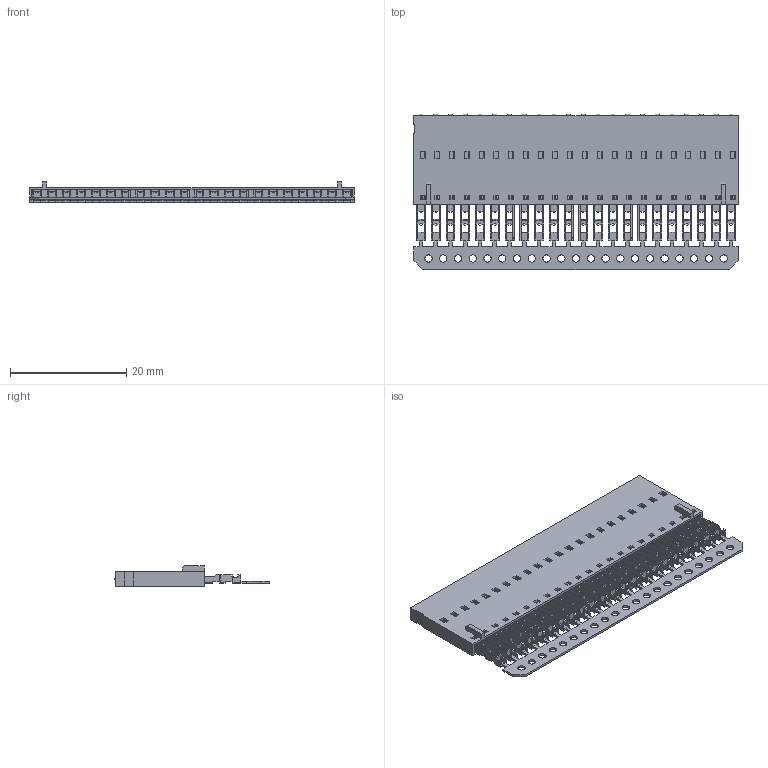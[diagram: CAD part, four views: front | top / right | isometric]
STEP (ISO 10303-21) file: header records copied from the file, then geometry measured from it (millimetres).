
FILE_DESCRIPTION((''),'2;1');
FILE_NAME('014444922','2016-10-21T',('gsharma'),(''),'PRO/ENGINEER BY PARAMETRIC TECHNOLOGY CORPORATION, 2012310','PRO/ENGINEER BY PARAMETRIC TECHNOLOGY CORPORATION, 2012310','');
FILE_SCHEMA(('CONFIG_CONTROL_DESIGN'));
Products named in the file (1): 014444922
Bounding box: 55.85 x 26.71 x 3.53 mm (x, y, z)
Volume: 1398.2 mm3; surface area: 7493.2 mm2
Topology: 1 solids, 1 shells, 2934 faces, 8481 edges, 5572 vertices
Faces by surface type: plane 2848, cylinder 86
Entity records: 94612 total; most frequent: CARTESIAN_POINT 16947, ORIENTED_EDGE 16920, DIRECTION 14525, EDGE_CURVE 8460, VECTOR 8309, LINE 8309, VERTEX_POINT 5530, EDGE_LOOP 3196
